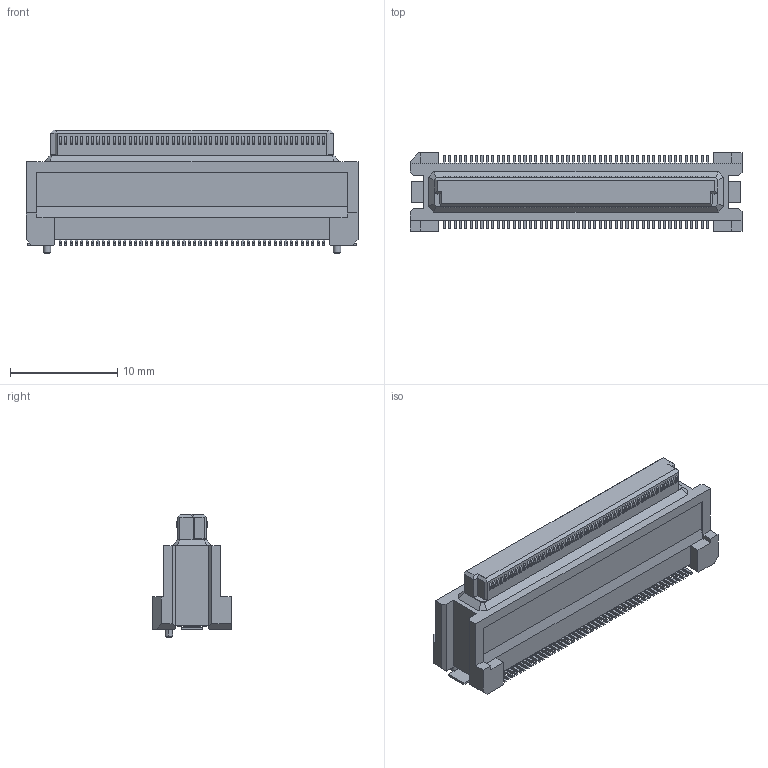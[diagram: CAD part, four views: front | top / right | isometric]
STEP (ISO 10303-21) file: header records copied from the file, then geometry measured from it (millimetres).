
FILE_DESCRIPTION(('Creo Elements/Direct Modeling STEP Export'),'2;1');
FILE_NAME('DY11-100FS-2.stp','2017-11-28T10:29:19',(''),(''),'Creo Elements/Direct Modeling STEP processor for AP214 (Solid Model)','Creo Elements/Direct Modeling 19.0F 14-Feb-2017 (C) Parametric Technology GmbH','');
FILE_SCHEMA(('AUTOMOTIVE_DESIGN { 1 0 10303 214 1 1 1 1 }'));
Length unit declared in the file: millimetre
Products named in the file (2): DY11-100FS-2
Assembly tree (1 placements, depth 2):
  DY11-100FS-2
    DY11-100FS-2
Bounding box: 30.9 x 7.3 x 11.5 mm (x, y, z)
Volume: 1262.6 mm3; surface area: 1283.4 mm2
Topology: 1 solids, 1 shells, 1466 faces, 4033 edges, 2674 vertices
Faces by surface type: plane 1044, cylinder 410, bspline 8, cone 4
Entity records: 46077 total; most frequent: CARTESIAN_POINT 9170, ORIENTED_EDGE 8066, DIRECTION 7133, EDGE_CURVE 4033, VECTOR 3179, LINE 3179, VERTEX_POINT 2674, AXIS2_PLACEMENT_3D 1977
